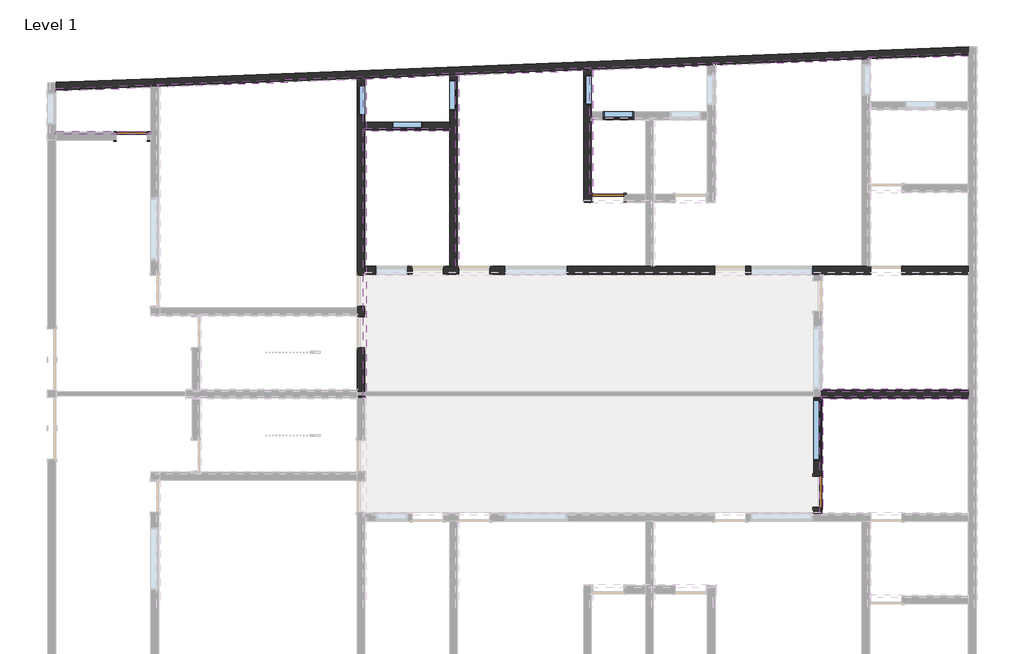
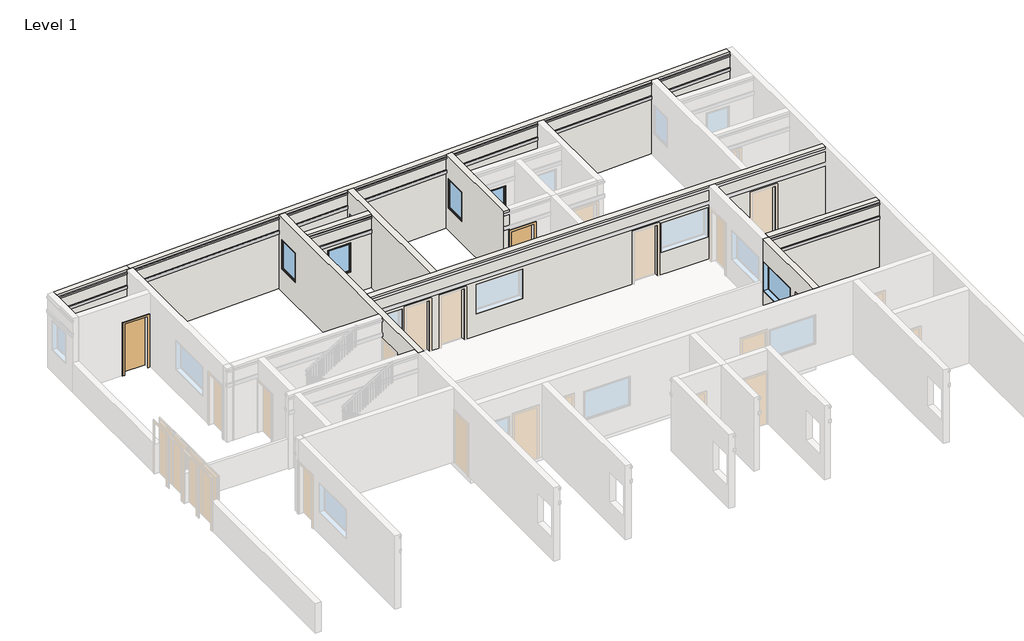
# One storey, part 4 of 5: 19 proxies, 10 walls, 6 windows, 3 doors.
"""IFC4 building model written with IfcOpenShell, lengths in millimetres."""

from ifc_helpers import new_model, si_unit, frame, origin, place, context, project, spatial, polyline, outline, extrude, faceted_brep, transform, mapped, element, save
from components import door_0ca8825f, door_a90ba1ad, window_c1f32544, fixed_6_x4_596a66d7

model = new_model("IFC4")

# Units and contexts
model_context = context("Model", 3, world=origin())
ifc_project = project(units=[si_unit("LENGTHUNIT", "METRE", prefix="MILLI")], contexts=[model_context])

# Site, building, storey
site = spatial("IfcSite", under=ifc_project)
building = spatial("IfcBuilding", under=site)
storey = spatial("IfcBuildingStorey", under=building, Name="Level 1", Elevation=0.0)

# Proxies
placement = place(None, origin())
element("IfcBuildingElementProxy", 1, Name="Reveals", at=placement, inside=storey, context=model_context, shape_type="SweptSolid", body=[
    extrude(outline(polyline([(-16957.5892301, 12403.0274363), (-16957.5892301, 12495.1720347), (-14138.1892301, 12604.815368), (-14138.1892301, 12512.6707697), (-16957.5892301, 12403.0274363)])), frame((0.0, 0.0, 2895.6), z_axis=(0.0, 0.0, 1.0), x_axis=(1.0, 0.0, 0.0)), (0.0, 0.0, 1.0), 67.7333333),
])
element("IfcBuildingElementProxy", 2, Name="Reveals", at=placement, inside=storey, context=model_context, shape_type="SweptSolid", body=[
    extrude(outline(polyline([(-7772.3142301, 3342.8239224), (-7864.3892301, 3342.8239224), (-7864.3892301, 12799.9336356), (-7772.3142301, 12799.9336356), (-7772.3142301, 3342.8239224)])), frame((0.0, 0.0, 2895.6), z_axis=(0.0, 0.0, 1.0), x_axis=(1.0, 0.0, 0.0)), (0.0, 0.0, 1.0), 67.7333333),
])
element("IfcBuildingElementProxy", 3, Name="Reveals", at=placement, inside=storey, context=model_context, shape_type="SweptSolid", body=[
    extrude(outline(polyline([(-5029.1142301, 7229.0239224), (-5121.1892301, 7229.0239224), (-5121.1892301, 12906.6136356), (-5029.1142301, 12906.6136356), (-5029.1142301, 7229.0239224)])), frame((0.0, 0.0, 2895.6), z_axis=(0.0, 0.0, 1.0), x_axis=(1.0, 0.0, 0.0)), (0.0, 0.0, 1.0), 67.7333333),
])
element("IfcBuildingElementProxy", 4, Name="Reveals", at=placement, inside=storey, context=model_context, shape_type="SweptSolid", body=[
    extrude(outline(polyline([(-7813.5892301, 11226.3489224), (-7813.5892301, 11318.4239224), (-5298.9892301, 11318.4239224), (-5298.9892301, 11226.3489224), (-7813.5892301, 11226.3489224)])), frame((0.0, 0.0, 2895.6), z_axis=(0.0, 0.0, 1.0), x_axis=(1.0, 0.0, 0.0)), (0.0, 0.0, 1.0), 67.7333333),
])
element("IfcBuildingElementProxy", 5, Name="Reveals", at=placement, inside=storey, context=model_context, shape_type="SweptSolid", body=[
    extrude(outline(polyline([(-1066.7142301, 9362.6239224), (-1158.7892301, 9362.6239224), (-1158.7892301, 13060.7069689), (-1066.7142301, 13060.7069689), (-1066.7142301, 9362.6239224)])), frame((0.0, 0.0, 2895.6), z_axis=(0.0, 0.0, 1.0), x_axis=(1.0, 0.0, 0.0)), (0.0, 0.0, 1.0), 67.7333333),
])
element("IfcBuildingElementProxy", 6, Name="Reveals", at=placement, inside=storey, context=model_context, shape_type="SweptSolid", body=[
    extrude(outline(polyline([(10042.6107699, 3612.6989224), (10042.6107699, 3520.6239224), (5648.4107699, 3520.6239224), (5740.4857699, 3612.6989224), (10042.6107699, 3612.6989224)])), frame((0.0, 0.0, 2895.6), z_axis=(0.0, 0.0, 1.0), x_axis=(1.0, 0.0, 0.0)), (0.0, 0.0, 1.0), 67.7333333),
])
element("IfcBuildingElementProxy", 7, Name="Reveals", at=placement, inside=storey, context=model_context, shape_type="SweptSolid", body=[
    extrude(outline(polyline([(-13868.3142301, 12523.1659086), (-13960.3892301, 12611.7298124), (10042.6107699, 13545.1798124), (10042.6107699, 13453.0352141), (-13868.3142301, 12523.1659086)])), frame((0.0, 0.0, 2895.6), z_axis=(0.0, 0.0, 1.0), x_axis=(1.0, 0.0, 0.0)), (0.0, 0.0, 1.0), 67.7333333),
])
element("IfcBuildingElementProxy", 8, Name="Reveals", at=placement, inside=storey, context=model_context, shape_type="SweptSolid", body=[
    extrude(outline(polyline([(5648.4107699, 3393.6239224), (5740.4857699, 3301.5489224), (5740.4857699, -86.1760776), (5648.4107699, -86.1760776), (5648.4107699, 3393.6239224)])), frame((0.0, 0.0, 2895.6), z_axis=(0.0, 0.0, 1.0), x_axis=(1.0, 0.0, 0.0)), (0.0, 0.0, 1.0), 67.7333333),
])
element("IfcBuildingElementProxy", 9, Name="Reveals", at=placement, inside=storey, context=model_context, shape_type="SweptSolid", body=[
    extrude(outline(polyline([(10042.6107699, 3393.6239224), (10042.6107699, 3301.5489224), (5740.4857699, 3301.5489224), (5648.4107699, 3393.6239224), (10042.6107699, 3393.6239224)])), frame((0.0, 0.0, 2895.6), z_axis=(0.0, 0.0, 1.0), x_axis=(1.0, 0.0, 0.0)), (0.0, 0.0, 1.0), 67.7333333),
])
element("IfcBuildingElementProxy", 10, Name="Reveals", at=placement, inside=storey, context=model_context, shape_type="SweptSolid", body=[
    extrude(outline(polyline([(-16957.5892301, 12403.0274363), (-16957.5892301, 12495.1720347), (-14138.1892301, 12604.815368), (-14138.1892301, 12512.6707697), (-16957.5892301, 12403.0274363)])), frame((0.0, 0.0, 2286.0), z_axis=(0.0, 0.0, 1.0), x_axis=(1.0, 0.0, 0.0)), (0.0, 0.0, 1.0), 135.4666667),
])
element("IfcBuildingElementProxy", 11, Name="Reveals", at=placement, inside=storey, context=model_context, shape_type="SweptSolid", body=[
    extrude(outline(polyline([(-7772.3142301, 3342.8239224), (-7864.3892301, 3342.8239224), (-7864.3892301, 12799.9336356), (-7772.3142301, 12799.9336356), (-7772.3142301, 3342.8239224)])), frame((0.0, 0.0, 2286.0), z_axis=(0.0, 0.0, 1.0), x_axis=(1.0, 0.0, 0.0)), (0.0, 0.0, 1.0), 135.4666667),
])
element("IfcBuildingElementProxy", 12, Name="Reveals", at=placement, inside=storey, context=model_context, shape_type="SweptSolid", body=[
    extrude(outline(polyline([(-5029.1142301, 7229.0239224), (-5121.1892301, 7229.0239224), (-5121.1892301, 12906.6136356), (-5029.1142301, 12906.6136356), (-5029.1142301, 7229.0239224)])), frame((0.0, 0.0, 2286.0), z_axis=(0.0, 0.0, 1.0), x_axis=(1.0, 0.0, 0.0)), (0.0, 0.0, 1.0), 135.4666667),
])
element("IfcBuildingElementProxy", 13, Name="Reveals", at=placement, inside=storey, context=model_context, shape_type="SweptSolid", body=[
    extrude(outline(polyline([(-7813.5892301, 11226.3489224), (-7813.5892301, 11318.4239224), (-5298.9892301, 11318.4239224), (-5298.9892301, 11226.3489224), (-7813.5892301, 11226.3489224)])), frame((0.0, 0.0, 2286.0), z_axis=(0.0, 0.0, 1.0), x_axis=(1.0, 0.0, 0.0)), (0.0, 0.0, 1.0), 135.4666667),
])
element("IfcBuildingElementProxy", 14, Name="Reveals", at=placement, inside=storey, context=model_context, shape_type="SweptSolid", body=[
    extrude(outline(polyline([(-1066.7142301, 9362.6239224), (-1158.7892301, 9362.6239224), (-1158.7892301, 13060.7069689), (-1066.7142301, 13060.7069689), (-1066.7142301, 9362.6239224)])), frame((0.0, 0.0, 2286.0), z_axis=(0.0, 0.0, 1.0), x_axis=(1.0, 0.0, 0.0)), (0.0, 0.0, 1.0), 135.4666667),
])
element("IfcBuildingElementProxy", 15, Name="Reveals", at=placement, inside=storey, context=model_context, shape_type="SweptSolid", body=[
    extrude(outline(polyline([(10042.6107699, 3612.6989224), (10042.6107699, 3520.6239224), (5648.4107699, 3520.6239224), (5740.4857699, 3612.6989224), (10042.6107699, 3612.6989224)])), frame((0.0, 0.0, 2286.0), z_axis=(0.0, 0.0, 1.0), x_axis=(1.0, 0.0, 0.0)), (0.0, 0.0, 1.0), 135.4666667),
])
element("IfcBuildingElementProxy", 16, Name="Reveals", at=placement, inside=storey, context=model_context, shape_type="SweptSolid", body=[
    extrude(outline(polyline([(-13868.3142301, 12523.1659086), (-13960.3892301, 12611.7298124), (10042.6107699, 13545.1798124), (10042.6107699, 13453.0352141), (-13868.3142301, 12523.1659086)])), frame((0.0, 0.0, 2286.0), z_axis=(0.0, 0.0, 1.0), x_axis=(1.0, 0.0, 0.0)), (0.0, 0.0, 1.0), 135.4666667),
])
element("IfcBuildingElementProxy", 17, Name="Reveals", at=placement, inside=storey, context=model_context, shape_type="SweptSolid", body=[
    extrude(outline(polyline([(-14138.1892301, 11232.6989224), (-14138.1892301, 11140.6239224), (-16957.5892301, 11140.6239224), (-16957.5892301, 11232.6989224), (-14138.1892301, 11232.6989224)])), frame((0.0, 0.0, 2286.0), z_axis=(0.0, 0.0, 1.0), x_axis=(1.0, 0.0, 0.0)), (0.0, 0.0, 1.0), 135.4666667),
])
element("IfcBuildingElementProxy", 18, Name="Reveals", at=placement, inside=storey, context=model_context, shape_type="SweptSolid", body=[
    extrude(outline(polyline([(5648.4107699, 3393.6239224), (5740.4857699, 3301.5489224), (5740.4857699, -86.1760776), (5648.4107699, -86.1760776), (5648.4107699, 3393.6239224)])), frame((0.0, 0.0, 2286.0), z_axis=(0.0, 0.0, 1.0), x_axis=(1.0, 0.0, 0.0)), (0.0, 0.0, 1.0), 135.4666667),
])
element("IfcBuildingElementProxy", 19, Name="Reveals", at=placement, inside=storey, context=model_context, shape_type="SweptSolid", body=[
    extrude(outline(polyline([(10042.6107699, 3393.6239224), (10042.6107699, 3301.5489224), (5740.4857699, 3301.5489224), (5648.4107699, 3393.6239224), (10042.6107699, 3393.6239224)])), frame((0.0, 0.0, 2286.0), z_axis=(0.0, 0.0, 1.0), x_axis=(1.0, 0.0, 0.0)), (0.0, 0.0, 1.0), 135.4666667),
])

# Doors
door_shape = door_0ca8825f(model_context)
element("IfcDoor", 20, ObjectType="Single-Flush : 36\" x 84\"", at=placement, inside=storey, context=model_context, shape_type="MappedRepresentation", body=[
    mapped(door_shape, transform((-14709.6892301, 11077.1239224, 0.0), x_axis=(1.0, 0.0, 0.0), y_axis=(0.0, 1.0, 0.0), z_axis=(0.0, 0.0, 1.0))),
])
element("IfcDoor", 21, ObjectType="Single-Flush : 36\" x 84\"", at=placement, inside=storey, context=model_context, shape_type="MappedRepresentation", body=[
    mapped(door_shape, transform((5584.9107699, 561.5239224, 0.0), x_axis=(0.0, -1.0, 0.0), y_axis=(1.0, 0.0, 0.0), z_axis=(0.0, 0.0, 1.0))),
])
door_2_shape = door_a90ba1ad(model_context)
element("IfcDoor", 22, ObjectType="Single-Flush : 36\" x 84\"", at=placement, inside=storey, context=model_context, shape_type="MappedRepresentation", body=[
    mapped(door_2_shape, transform((-612.6892301, 9248.3239224, 0.0), x_axis=(-1.0, 0.0, 0.0), y_axis=(0.0, -1.0, 0.0), z_axis=(0.0, 0.0, 1.0))),
])

# Walls
element("IfcWall", 23, ObjectType="9\" thick brick wall", at=placement, inside=storey, context=model_context, shape_type="Brep", body=[
    faceted_brep([(-16957.5892301, 12444.3336356, 0.0), (-14138.1892301, 12553.9769689, 0.0), (-14019.4475875, 12558.5946995, 0.0), (-14019.4475875, 12558.5946995, 3048.0), (-14138.1892301, 12553.9769689, 3048.0), (-16957.5892301, 12444.3336356, 3048.0), (-16957.5892301, 12444.3336356, 2963.3333333), (-14138.1892301, 12553.9769689, 2963.3333333), (-14138.1892301, 12553.9769689, 2895.6), (-16957.5892301, 12444.3336356, 2895.6), (-16957.5892301, 12444.3336356, 2421.4666667), (-14138.1892301, 12553.9769689, 2421.4666667), (-14138.1892301, 12553.9769689, 2286.0), (-16957.5892301, 12444.3336356, 2286.0), (-14028.3308727, 12787.0220342, 0.0), (-16957.5892301, 12673.1064314, 0.0), (-16957.5892301, 12673.1064314, 3048.0), (-14028.3308727, 12787.0220342, 3048.0), (-16957.5892301, 12495.1720347, 2286.0), (-16957.5892301, 12495.1720347, 2421.4666667), (-16957.5892301, 12495.1720347, 2895.6), (-16957.5892301, 12495.1720347, 2963.3333333), (-14138.1892301, 12604.815368, 2963.3333333), (-14138.1892301, 12604.815368, 2895.6), (-14138.1892301, 12604.815368, 2421.4666667), (-14138.1892301, 12604.815368, 2286.0)], [[[0, 1, 2, 3, 4, 5, 6, 7, 8, 9, 10, 11, 12, 13]], [[14, 15, 16, 17]], [[2, 1, 0, 15, 14]], [[3, 2, 14, 17]], [[5, 4, 3, 17, 16]], [[5, 16, 15, 0, 13, 18, 19, 10, 9, 20, 21, 6]], [[22, 23, 8, 7]], [[23, 22, 21, 20]], [[23, 20, 9, 8]], [[21, 22, 7, 6]], [[24, 25, 12, 11]], [[25, 24, 19, 18]], [[25, 18, 13, 12]], [[19, 24, 11, 10]]]),
])
element("IfcWall", 24, ObjectType="9\" thick brick wall", at=placement, inside=storey, context=model_context, shape_type="Brep", body=[
    faceted_brep([(-7813.5892301, 12799.9336356, 3048.0), (-7813.5892301, 11496.2239224, 3048.0), (-7813.5892301, 11267.6239224, 3048.0), (-7813.5892301, 7229.0239224, 3048.0), (-7813.5892301, 7000.4239224, 3048.0), (-7813.5892301, 3342.8239224, 3048.0), (-7813.5892301, 3342.8239224, 2963.3333333), (-7813.5892301, 11267.6239224, 2963.3333333), (-7813.5892301, 11318.4239224, 2963.3333333), (-7813.5892301, 12799.9336356, 2963.3333333), (-7813.5892301, 6047.9239224, 0.0), (-7813.5892301, 6047.9239224, 2133.6), (-7813.5892301, 6962.3239224, 2133.6), (-7813.5892301, 6962.3239224, 0.0), (-7813.5892301, 7000.4239224, 0.0), (-7813.5892301, 7229.0239224, 0.0), (-7813.5892301, 11267.6239224, 0.0), (-7813.5892301, 11496.2239224, 0.0), (-7813.5892301, 12799.9336356, 0.0), (-7813.5892301, 12799.9336356, 2286.0), (-7813.5892301, 11318.4239224, 2286.0), (-7813.5892301, 11267.6239224, 2286.0), (-7813.5892301, 3342.8239224, 2286.0), (-7813.5892301, 3342.8239224, 0.0), (-7813.5892301, 4828.7239224, 0.0), (-7813.5892301, 4828.7239224, 2133.6), (-7813.5892301, 5743.1239224, 2133.6), (-7813.5892301, 5743.1239224, 0.0), (-7813.5892301, 12601.1239224, 2133.6), (-7813.5892301, 12601.1239224, 914.4), (-7813.5892301, 11686.7239224, 914.4), (-7813.5892301, 11686.7239224, 2133.6), (-7813.5892301, 12799.9336356, 2895.6), (-7813.5892301, 11318.4239224, 2895.6), (-7813.5892301, 11267.6239224, 2895.6), (-7813.5892301, 3342.8239224, 2895.6), (-7813.5892301, 3342.8239224, 2421.4666667), (-7813.5892301, 11267.6239224, 2421.4666667), (-7813.5892301, 11318.4239224, 2421.4666667), (-7813.5892301, 12799.9336356, 2421.4666667), (-8042.1892301, 3342.8239224, 3048.0), (-8042.1892301, 3571.4239224, 3048.0), (-8042.1892301, 5781.2239224, 3048.0), (-8042.1892301, 6009.8239224, 3048.0), (-8042.1892301, 12791.0436356, 3048.0), (-8042.1892301, 12791.0436356, 0.0), (-8042.1892301, 6962.3239224, 0.0), (-8042.1892301, 6962.3239224, 2133.6), (-8042.1892301, 6047.9239224, 2133.6), (-8042.1892301, 6047.9239224, 0.0), (-8042.1892301, 6009.8239224, 0.0), (-8042.1892301, 5781.2239224, 0.0), (-8042.1892301, 5743.1239224, 0.0), (-8042.1892301, 5743.1239224, 2133.6), (-8042.1892301, 4828.7239224, 2133.6), (-8042.1892301, 4828.7239224, 0.0), (-8042.1892301, 3571.4239224, 0.0), (-8042.1892301, 3342.8239224, 0.0), (-8042.1892301, 3342.8239224, 2286.0), (-8042.1892301, 3342.8239224, 2421.4666667), (-8042.1892301, 3342.8239224, 2895.6), (-8042.1892301, 3342.8239224, 2963.3333333), (-8042.1892301, 12601.1239224, 914.4), (-8042.1892301, 12601.1239224, 2133.6), (-8042.1892301, 11686.7239224, 2133.6), (-8042.1892301, 11686.7239224, 914.4), (-7864.3892301, 3342.8239224, 2286.0), (-7864.3892301, 3342.8239224, 2421.4666667), (-7864.3892301, 3342.8239224, 2895.6), (-7864.3892301, 3342.8239224, 2963.3333333), (-7864.3892301, 12797.95808, 2963.3333333), (-7864.3892301, 12797.95808, 2895.6), (-7864.3892301, 12797.95808, 2421.4666667), (-7864.3892301, 12797.95808, 2286.0)], [[[0, 1, 2, 3, 4, 5, 6, 7, 8, 9]], [[10, 11, 12, 13, 14, 15, 16, 17, 18, 19, 20, 21, 22, 23, 24, 25, 26, 27], [28, 29, 30, 31]], [[32, 33, 34, 35, 36, 37, 38, 39]], [[40, 41, 42, 43, 44, 45, 46, 47, 48, 49, 50, 51, 52, 53, 54, 55, 56, 57, 58, 59, 60, 61], [62, 63, 64, 65]], [[23, 57, 56, 55, 24]], [[45, 18, 17, 16, 15, 14, 13, 46]], [[49, 10, 27, 52, 51, 50]], [[5, 4, 3, 2, 1, 0, 44, 43, 42, 41, 40]], [[5, 40, 61, 60, 59, 58, 57, 23, 22, 66, 67, 36, 35, 68, 69, 6]], [[18, 45, 44, 0, 9, 70, 71, 32, 39, 72, 73, 19]], [[11, 10, 49, 48]], [[12, 11, 48, 47]], [[13, 12, 47, 46]], [[53, 52, 27, 26]], [[54, 53, 26, 25]], [[55, 54, 25, 24]], [[29, 28, 63, 62]], [[30, 29, 62, 65]], [[31, 30, 65, 64]], [[28, 31, 64, 63]], [[70, 69, 68, 71]], [[71, 68, 35, 34, 33, 32]], [[69, 70, 9, 8, 7, 6]], [[72, 67, 66, 73]], [[73, 66, 22, 21, 20, 19]], [[67, 72, 39, 38, 37, 36]]]),
])
element("IfcWall", 25, ObjectType="9\" thick brick wall", at=placement, inside=storey, context=model_context, shape_type="Brep", body=[
    faceted_brep([(-5070.3892301, 7229.0239224, 0.0), (-5070.3892301, 12906.6136356, 0.0), (-5070.3892301, 12906.6136356, 2286.0), (-5070.3892301, 7229.0239224, 2286.0), (-5070.3892301, 11839.1239224, 914.4), (-5070.3892301, 11839.1239224, 2133.6), (-5070.3892301, 12753.5239224, 2133.6), (-5070.3892301, 12753.5239224, 914.4), (-5070.3892301, 12906.6136356, 3048.0), (-5070.3892301, 7229.0239224, 3048.0), (-5070.3892301, 7229.0239224, 2963.3333333), (-5070.3892301, 12906.6136356, 2963.3333333), (-5070.3892301, 12906.6136356, 2895.6), (-5070.3892301, 7229.0239224, 2895.6), (-5070.3892301, 7229.0239224, 2421.4666667), (-5070.3892301, 12906.6136356, 2421.4666667), (-5298.9892301, 12897.7236356, 0.0), (-5298.9892301, 11496.2239224, 0.0), (-5298.9892301, 11267.6239224, 0.0), (-5298.9892301, 7229.0239224, 0.0), (-5298.9892301, 7229.0239224, 3048.0), (-5298.9892301, 11267.6239224, 3048.0), (-5298.9892301, 11496.2239224, 3048.0), (-5298.9892301, 12897.7236356, 3048.0), (-5298.9892301, 11839.1239224, 2133.6), (-5298.9892301, 11839.1239224, 914.4), (-5298.9892301, 12753.5239224, 914.4), (-5298.9892301, 12753.5239224, 2133.6), (-5121.1892301, 7229.0239224, 2286.0), (-5121.1892301, 7229.0239224, 2421.4666667), (-5121.1892301, 7229.0239224, 2895.6), (-5121.1892301, 7229.0239224, 2963.3333333), (-5121.1892301, 12904.63808, 2963.3333333), (-5121.1892301, 12904.63808, 2895.6), (-5121.1892301, 12904.63808, 2421.4666667), (-5121.1892301, 12904.63808, 2286.0)], [[[0, 1, 2, 3], [4, 5, 6, 7]], [[8, 9, 10, 11]], [[12, 13, 14, 15]], [[16, 17, 18, 19, 20, 21, 22, 23], [24, 25, 26, 27]], [[1, 0, 19, 18, 17, 16]], [[9, 8, 23, 22, 21, 20]], [[9, 20, 19, 0, 3, 28, 29, 14, 13, 30, 31, 10]], [[1, 16, 23, 8, 11, 32, 33, 12, 15, 34, 35, 2]], [[25, 24, 5, 4]], [[26, 25, 4, 7]], [[27, 26, 7, 6]], [[24, 27, 6, 5]], [[32, 31, 30, 33]], [[33, 30, 13, 12]], [[31, 32, 11, 10]], [[34, 29, 28, 35]], [[35, 28, 3, 2]], [[29, 34, 15, 14]]]),
])
element("IfcWall", 26, ObjectType="9\" thick brick wall", at=placement, inside=storey, context=model_context, shape_type="Brep", body=[
    faceted_brep([(10042.6107699, 7000.4239224, 3048.0), (5699.2107699, 7000.4239224, 3048.0), (5470.6107699, 7000.4239224, 3048.0), (-7813.5892301, 7000.4239224, 3048.0), (-7813.5892301, 7000.4239224, 2963.3333333), (10042.6107699, 7000.4239224, 2963.3333333), (-5489.4892301, 7000.4239224, 2133.6), (-5489.4892301, 7000.4239224, 0.0), (-5032.2892301, 7000.4239224, 0.0), (-5032.2892301, 7000.4239224, 2133.6), (-4117.8892301, 7000.4239224, 2133.6), (-4117.8892301, 7000.4239224, 0.0), (2536.9107699, 7000.4239224, 0.0), (2536.9107699, 7000.4239224, 2133.6), (3451.3107699, 7000.4239224, 2133.6), (3451.3107699, 7000.4239224, 0.0), (5470.6107699, 7000.4239224, 0.0), (5699.2107699, 7000.4239224, 0.0), (7159.7107699, 7000.4239224, 0.0), (7159.7107699, 7000.4239224, 2133.6), (8074.1107699, 7000.4239224, 2133.6), (8074.1107699, 7000.4239224, 0.0), (10042.6107699, 7000.4239224, 0.0), (10042.6107699, 7000.4239224, 2286.0), (-7813.5892301, 7000.4239224, 2286.0), (-7813.5892301, 7000.4239224, 0.0), (-6403.8892301, 7000.4239224, 0.0), (-6403.8892301, 7000.4239224, 2133.6), (-1831.8892301, 7000.4239224, 2133.6), (-1831.8892301, 7000.4239224, 914.4), (-3660.6892301, 7000.4239224, 914.4), (-3660.6892301, 7000.4239224, 2133.6), (5432.5107699, 7000.4239224, 2133.6), (5432.5107699, 7000.4239224, 914.4), (3603.7107699, 7000.4239224, 914.4), (3603.7107699, 7000.4239224, 2133.6), (-7470.6892301, 7000.4239224, 914.4), (-7470.6892301, 7000.4239224, 2133.6), (-6556.2892301, 7000.4239224, 2133.6), (-6556.2892301, 7000.4239224, 914.4), (10042.6107699, 7000.4239224, 2895.6), (-7813.5892301, 7000.4239224, 2895.6), (-7813.5892301, 7000.4239224, 2421.4666667), (10042.6107699, 7000.4239224, 2421.4666667), (-7813.5892301, 7229.0239224, 3048.0), (-5298.9892301, 7229.0239224, 3048.0), (-5070.3892301, 7229.0239224, 3048.0), (492.2107699, 7229.0239224, 3048.0), (720.8107699, 7229.0239224, 3048.0), (6893.0107699, 7229.0239224, 3048.0), (7121.6107699, 7229.0239224, 3048.0), (10042.6107699, 7229.0239224, 3048.0), (10042.6107699, 7229.0239224, 0.0), (8074.1107699, 7229.0239224, 0.0), (8074.1107699, 7229.0239224, 2133.6), (7159.7107699, 7229.0239224, 2133.6), (7159.7107699, 7229.0239224, 0.0), (7121.6107699, 7229.0239224, 0.0), (6893.0107699, 7229.0239224, 0.0), (3451.3107699, 7229.0239224, 0.0), (3451.3107699, 7229.0239224, 2133.6), (2536.9107699, 7229.0239224, 2133.6), (2536.9107699, 7229.0239224, 0.0), (720.8107699, 7229.0239224, 0.0), (492.2107699, 7229.0239224, 0.0), (-4117.8892301, 7229.0239224, 0.0), (-4117.8892301, 7229.0239224, 2133.6), (-5032.2892301, 7229.0239224, 2133.6), (-5032.2892301, 7229.0239224, 0.0), (-5070.3892301, 7229.0239224, 0.0), (-5298.9892301, 7229.0239224, 0.0), (-5489.4892301, 7229.0239224, 0.0), (-5489.4892301, 7229.0239224, 2133.6), (-6403.8892301, 7229.0239224, 2133.6), (-6403.8892301, 7229.0239224, 0.0), (-7813.5892301, 7229.0239224, 0.0), (-1831.8892301, 7229.0239224, 914.4), (-1831.8892301, 7229.0239224, 2133.6), (-3660.6892301, 7229.0239224, 2133.6), (-3660.6892301, 7229.0239224, 914.4), (5432.5107699, 7229.0239224, 914.4), (5432.5107699, 7229.0239224, 2133.6), (3603.7107699, 7229.0239224, 2133.6), (3603.7107699, 7229.0239224, 914.4), (-7470.6892301, 7229.0239224, 2133.6), (-7470.6892301, 7229.0239224, 914.4), (-6556.2892301, 7229.0239224, 914.4), (-6556.2892301, 7229.0239224, 2133.6), (-7813.5892301, 7051.2239224, 2286.0), (-7813.5892301, 7051.2239224, 2421.4666667), (-7813.5892301, 7051.2239224, 2895.6), (-7813.5892301, 7051.2239224, 2963.3333333), (10042.6107699, 7051.2239224, 2963.3333333), (10042.6107699, 7051.2239224, 2895.6), (10042.6107699, 7051.2239224, 2421.4666667), (10042.6107699, 7051.2239224, 2286.0)], [[[0, 1, 2, 3, 4, 5]], [[6, 7, 8, 9, 10, 11, 12, 13, 14, 15, 16, 17, 18, 19, 20, 21, 22, 23, 24, 25, 26, 27], [28, 29, 30, 31], [32, 33, 34, 35], [36, 37, 38, 39]], [[40, 41, 42, 43]], [[44, 45, 46, 47, 48, 49, 50, 51, 52, 53, 54, 55, 56, 57, 58, 59, 60, 61, 62, 63, 64, 65, 66, 67, 68, 69, 70, 71, 72, 73, 74, 75], [76, 77, 78, 79], [80, 81, 82, 83], [84, 85, 86, 87]], [[25, 75, 74, 26]], [[52, 22, 21, 53]], [[7, 71, 70, 69, 68, 8]], [[11, 65, 64, 63, 62, 12]], [[56, 18, 17, 16, 15, 59, 58, 57]], [[3, 2, 1, 0, 51, 50, 49, 48, 47, 46, 45, 44]], [[3, 44, 75, 25, 24, 88, 89, 42, 41, 90, 91, 4]], [[22, 52, 51, 0, 5, 92, 93, 40, 43, 94, 95, 23]], [[72, 71, 7, 6]], [[73, 72, 6, 27]], [[74, 73, 27, 26]], [[9, 8, 68, 67]], [[10, 9, 67, 66]], [[11, 10, 66, 65]], [[19, 18, 56, 55]], [[20, 19, 55, 54]], [[21, 20, 54, 53]], [[13, 12, 62, 61]], [[14, 13, 61, 60]], [[15, 14, 60, 59]], [[29, 28, 77, 76]], [[30, 29, 76, 79]], [[31, 30, 79, 78]], [[28, 31, 78, 77]], [[33, 32, 81, 80]], [[34, 33, 80, 83]], [[35, 34, 83, 82]], [[32, 35, 82, 81]], [[85, 84, 37, 36]], [[86, 85, 36, 39]], [[87, 86, 39, 38]], [[84, 87, 38, 37]], [[92, 91, 90, 93]], [[93, 90, 41, 40]], [[91, 92, 5, 4]], [[94, 89, 88, 95]], [[95, 88, 24, 23]], [[89, 94, 43, 42]]]),
])
element("IfcWall", 27, ObjectType="9\" thick brick wall", at=placement, inside=storey, context=model_context, shape_type="Brep", body=[
    faceted_brep([(-7813.5892301, 11267.6239224, 0.0), (-5298.9892301, 11267.6239224, 0.0), (-5298.9892301, 11267.6239224, 2286.0), (-7813.5892301, 11267.6239224, 2286.0), (-7013.4892301, 11267.6239224, 914.4), (-7013.4892301, 11267.6239224, 2133.6), (-6099.0892301, 11267.6239224, 2133.6), (-6099.0892301, 11267.6239224, 914.4), (-5298.9892301, 11267.6239224, 3048.0), (-7813.5892301, 11267.6239224, 3048.0), (-7813.5892301, 11267.6239224, 2963.3333333), (-5298.9892301, 11267.6239224, 2963.3333333), (-5298.9892301, 11267.6239224, 2895.6), (-7813.5892301, 11267.6239224, 2895.6), (-7813.5892301, 11267.6239224, 2421.4666667), (-5298.9892301, 11267.6239224, 2421.4666667), (-5298.9892301, 11496.2239224, 0.0), (-7813.5892301, 11496.2239224, 0.0), (-7813.5892301, 11496.2239224, 3048.0), (-5298.9892301, 11496.2239224, 3048.0), (-7013.4892301, 11496.2239224, 2133.6), (-7013.4892301, 11496.2239224, 914.4), (-6099.0892301, 11496.2239224, 914.4), (-6099.0892301, 11496.2239224, 2133.6), (-7813.5892301, 11318.4239224, 2286.0), (-7813.5892301, 11318.4239224, 2421.4666667), (-7813.5892301, 11318.4239224, 2895.6), (-7813.5892301, 11318.4239224, 2963.3333333), (-5298.9892301, 11318.4239224, 2963.3333333), (-5298.9892301, 11318.4239224, 2895.6), (-5298.9892301, 11318.4239224, 2421.4666667), (-5298.9892301, 11318.4239224, 2286.0)], [[[0, 1, 2, 3], [4, 5, 6, 7]], [[8, 9, 10, 11]], [[12, 13, 14, 15]], [[16, 17, 18, 19], [20, 21, 22, 23]], [[1, 0, 17, 16]], [[9, 8, 19, 18]], [[9, 18, 17, 0, 3, 24, 25, 14, 13, 26, 27, 10]], [[1, 16, 19, 8, 11, 28, 29, 12, 15, 30, 31, 2]], [[21, 20, 5, 4]], [[22, 21, 4, 7]], [[23, 22, 7, 6]], [[20, 23, 6, 5]], [[28, 27, 26, 29]], [[29, 26, 13, 12]], [[27, 28, 11, 10]], [[30, 25, 24, 31]], [[31, 24, 3, 2]], [[25, 30, 15, 14]]]),
])
element("IfcWall", 28, ObjectType="9\" thick brick wall", at=placement, inside=storey, context=model_context, shape_type="Brep", body=[
    faceted_brep([(-1107.9892301, 9134.0239224, 0.0), (-1107.9892301, 9362.6239224, 0.0), (-1107.9892301, 11572.4239224, 0.0), (-1107.9892301, 11801.0239224, 0.0), (-1107.9892301, 13060.7069689, 0.0), (-1107.9892301, 13060.7069689, 2286.0), (-1107.9892301, 11623.2239224, 2286.0), (-1107.9892301, 11572.4239224, 2286.0), (-1107.9892301, 9362.6239224, 2286.0), (-1107.9892301, 9362.6239224, 2421.4666667), (-1107.9892301, 11572.4239224, 2421.4666667), (-1107.9892301, 11623.2239224, 2421.4666667), (-1107.9892301, 13060.7069689, 2421.4666667), (-1107.9892301, 13060.7069689, 2895.6), (-1107.9892301, 11623.2239224, 2895.6), (-1107.9892301, 11572.4239224, 2895.6), (-1107.9892301, 9362.6239224, 2895.6), (-1107.9892301, 9362.6239224, 2963.3333333), (-1107.9892301, 11572.4239224, 2963.3333333), (-1107.9892301, 11623.2239224, 2963.3333333), (-1107.9892301, 13060.7069689, 2963.3333333), (-1107.9892301, 13060.7069689, 3048.0), (-1107.9892301, 11801.0239224, 3048.0), (-1107.9892301, 11572.4239224, 3048.0), (-1107.9892301, 9362.6239224, 3048.0), (-1107.9892301, 9134.0239224, 3048.0), (-1107.9892301, 9134.0239224, 2963.3333333), (-1107.9892301, 9184.8239224, 2963.3333333), (-1107.9892301, 9184.8239224, 2895.6), (-1107.9892301, 9134.0239224, 2895.6), (-1107.9892301, 9134.0239224, 2421.4666667), (-1107.9892301, 9184.8239224, 2421.4666667), (-1107.9892301, 9184.8239224, 2286.0), (-1107.9892301, 9134.0239224, 2286.0), (-1107.9892301, 12905.9239224, 2133.6), (-1107.9892301, 12905.9239224, 914.4), (-1107.9892301, 11991.5239224, 914.4), (-1107.9892301, 11991.5239224, 2133.6), (-1336.5892301, 13051.8169689, 0.0), (-1336.5892301, 9134.0239224, 0.0), (-1336.5892301, 9134.0239224, 2286.0), (-1336.5892301, 9184.8239224, 2286.0), (-1336.5892301, 9184.8239224, 2421.4666667), (-1336.5892301, 9134.0239224, 2421.4666667), (-1336.5892301, 9134.0239224, 2895.6), (-1336.5892301, 9184.8239224, 2895.6), (-1336.5892301, 9184.8239224, 2963.3333333), (-1336.5892301, 9134.0239224, 2963.3333333), (-1336.5892301, 9134.0239224, 3048.0), (-1336.5892301, 13051.8169689, 3048.0), (-1336.5892301, 12905.9239224, 914.4), (-1336.5892301, 12905.9239224, 2133.6), (-1336.5892301, 11991.5239224, 2133.6), (-1336.5892301, 11991.5239224, 914.4), (-1158.7892301, 13058.7314134, 2963.3333333), (-1158.7892301, 13058.7314134, 2895.6), (-1158.7892301, 13058.7314134, 2421.4666667), (-1158.7892301, 13058.7314134, 2286.0), (-1158.7892301, 9362.6239224, 2895.6), (-1158.7892301, 9362.6239224, 2963.3333333), (-1158.7892301, 9362.6239224, 2286.0), (-1158.7892301, 9362.6239224, 2421.4666667)], [[[0, 1, 2, 3, 4, 5, 6, 7, 8, 9, 10, 11, 12, 13, 14, 15, 16, 17, 18, 19, 20, 21, 22, 23, 24, 25, 26, 27, 28, 29, 30, 31, 32, 33], [34, 35, 36, 37]], [[38, 39, 40, 41, 42, 43, 44, 45, 46, 47, 48, 49], [50, 51, 52, 53]], [[4, 3, 2, 1, 0, 39, 38]], [[25, 24, 23, 22, 21, 49, 48]], [[25, 48, 47, 26]], [[39, 0, 33, 40]], [[29, 44, 43, 30]], [[4, 38, 49, 21, 20, 54, 55, 13, 12, 56, 57, 5]], [[35, 34, 51, 50]], [[36, 35, 50, 53]], [[37, 36, 53, 52]], [[34, 37, 52, 51]], [[58, 59, 17, 16]], [[59, 58, 55, 54]], [[58, 16, 15, 14, 13, 55]], [[17, 59, 54, 20, 19, 18]], [[27, 46, 45, 28]], [[28, 45, 44, 29]], [[46, 27, 26, 47]], [[60, 61, 9, 8]], [[61, 60, 57, 56]], [[60, 8, 7, 6, 5, 57]], [[9, 61, 56, 12, 11, 10]], [[31, 42, 41, 32]], [[32, 41, 40, 33]], [[42, 31, 30, 43]]]),
])
element("IfcWall", 29, ObjectType="9\" thick brick wall", at=placement, inside=storey, context=model_context, shape_type="SweptSolid", body=[
    extrude(outline(polyline([(3571.4239224, 0.0), (3342.8239224, 0.0), (3342.8239224, 2286.0), (3393.6239224, 2286.0), (3393.6239224, 2421.4666667), (3342.8239224, 2421.4666667), (3342.8239224, 2895.6), (3393.6239224, 2895.6), (3393.6239224, 2963.3333333), (3342.8239224, 2963.3333333), (3342.8239224, 3048.0), (3571.4239224, 3048.0), (3571.4239224, 2963.3333333), (3520.6239224, 2963.3333333), (3520.6239224, 2895.6), (3571.4239224, 2895.6), (3571.4239224, 2421.4666667), (3520.6239224, 2421.4666667), (3520.6239224, 2286.0), (3571.4239224, 2286.0), (3571.4239224, 0.0)])), frame((5699.2107699, 0.0, 0.0), z_axis=(1.0, 0.0, 0.0), x_axis=(0.0, 1.0, 0.0)), (0.0, 0.0, 1.0), 4343.4),
])
element("IfcWall", 30, ObjectType="9\" thick brick wall", at=placement, inside=storey, context=model_context, shape_type="Brep", body=[
    faceted_brep([(-14019.4475875, 12558.5946995, 0.0), (-13909.5892301, 12562.8669689, 0.0), (-8042.1892301, 12791.0436356, 0.0), (-7813.5892301, 12799.9336356, 0.0), (-5298.9892301, 12897.7236356, 0.0), (-5070.3892301, 12906.6136356, 0.0), (-1336.5892301, 13051.8169689, 0.0), (-1107.9892301, 13060.7069689, 0.0), (2321.0107699, 13194.0569689, 0.0), (2549.6107699, 13202.9469689, 0.0), (6893.0107699, 13371.8569689, 0.0), (7121.6107699, 13380.7469689, 0.0), (10042.6107699, 13494.3414134, 0.0), (10042.6107699, 13494.3414134, 2286.0), (7121.6107699, 13380.7469689, 2286.0), (7070.8107699, 13378.7714134, 2286.0), (2549.6107699, 13202.9469689, 2286.0), (2498.8107699, 13200.9714134, 2286.0), (-1107.9892301, 13060.7069689, 2286.0), (-1158.7892301, 13058.7314134, 2286.0), (-5070.3892301, 12906.6136356, 2286.0), (-5121.1892301, 12904.63808, 2286.0), (-7813.5892301, 12799.9336356, 2286.0), (-7864.3892301, 12797.95808, 2286.0), (-13909.5892301, 12562.8669689, 2286.0), (-13960.3892301, 12560.8914134, 2286.0), (-13960.3892301, 12560.8914134, 2421.4666667), (-13909.5892301, 12562.8669689, 2421.4666667), (-7864.3892301, 12797.95808, 2421.4666667), (-7813.5892301, 12799.9336356, 2421.4666667), (-5121.1892301, 12904.63808, 2421.4666667), (-5070.3892301, 12906.6136356, 2421.4666667), (-1158.7892301, 13058.7314134, 2421.4666667), (-1107.9892301, 13060.7069689, 2421.4666667), (2498.8107699, 13200.9714134, 2421.4666667), (2549.6107699, 13202.9469689, 2421.4666667), (7070.8107699, 13378.7714134, 2421.4666667), (7121.6107699, 13380.7469689, 2421.4666667), (10042.6107699, 13494.3414134, 2421.4666667), (10042.6107699, 13494.3414134, 2895.6), (7121.6107699, 13380.7469689, 2895.6), (7070.8107699, 13378.7714134, 2895.6), (2549.6107699, 13202.9469689, 2895.6), (2498.8107699, 13200.9714134, 2895.6), (-1107.9892301, 13060.7069689, 2895.6), (-1158.7892301, 13058.7314134, 2895.6), (-5070.3892301, 12906.6136356, 2895.6), (-5121.1892301, 12904.63808, 2895.6), (-7813.5892301, 12799.9336356, 2895.6), (-7864.3892301, 12797.95808, 2895.6), (-13909.5892301, 12562.8669689, 2895.6), (-13960.3892301, 12560.8914134, 2895.6), (-13960.3892301, 12560.8914134, 2963.3333333), (-13909.5892301, 12562.8669689, 2963.3333333), (-7864.3892301, 12797.95808, 2963.3333333), (-7813.5892301, 12799.9336356, 2963.3333333), (-5121.1892301, 12904.63808, 2963.3333333), (-5070.3892301, 12906.6136356, 2963.3333333), (-1158.7892301, 13058.7314134, 2963.3333333), (-1107.9892301, 13060.7069689, 2963.3333333), (2498.8107699, 13200.9714134, 2963.3333333), (2549.6107699, 13202.9469689, 2963.3333333), (7070.8107699, 13378.7714134, 2963.3333333), (7121.6107699, 13380.7469689, 2963.3333333), (10042.6107699, 13494.3414134, 2963.3333333), (10042.6107699, 13494.3414134, 3048.0), (7121.6107699, 13380.7469689, 3048.0), (6893.0107699, 13371.8569689, 3048.0), (2549.6107699, 13202.9469689, 3048.0), (2321.0107699, 13194.0569689, 3048.0), (-1107.9892301, 13060.7069689, 3048.0), (-1336.5892301, 13051.8169689, 3048.0), (-5070.3892301, 12906.6136356, 3048.0), (-5298.9892301, 12897.7236356, 3048.0), (-7813.5892301, 12799.9336356, 3048.0), (-8042.1892301, 12791.0436356, 3048.0), (-13909.5892301, 12562.8669689, 3048.0), (-14019.4475875, 12558.5946995, 3048.0), (10042.6107699, 13723.1142092, 0.0), (-14028.3308727, 12787.0220342, 0.0), (-14028.3308727, 12787.0220342, 3048.0), (10042.6107699, 13723.1142092, 3048.0), (10042.6107699, 13545.1798124, 2963.3333333), (10042.6107699, 13545.1798124, 2895.6), (10042.6107699, 13545.1798124, 2421.4666667), (10042.6107699, 13545.1798124, 2286.0), (-13960.3892301, 12611.7298124, 2895.6), (-13960.3892301, 12611.7298124, 2963.3333333), (-13960.3892301, 12611.7298124, 2286.0), (-13960.3892301, 12611.7298124, 2421.4666667)], [[[0, 1, 2, 3, 4, 5, 6, 7, 8, 9, 10, 11, 12, 13, 14, 15, 16, 17, 18, 19, 20, 21, 22, 23, 24, 25, 26, 27, 28, 29, 30, 31, 32, 33, 34, 35, 36, 37, 38, 39, 40, 41, 42, 43, 44, 45, 46, 47, 48, 49, 50, 51, 52, 53, 54, 55, 56, 57, 58, 59, 60, 61, 62, 63, 64, 65, 66, 67, 68, 69, 70, 71, 72, 73, 74, 75, 76, 77]], [[78, 79, 80, 81]], [[12, 11, 10, 9, 8, 7, 6, 5, 4, 3, 2, 1, 0, 79, 78]], [[77, 76, 75, 74, 73, 72, 71, 70, 69, 68, 67, 66, 65, 81, 80]], [[0, 77, 80, 79]], [[12, 78, 81, 65, 64, 82, 83, 39, 38, 84, 85, 13]], [[86, 87, 52, 51]], [[83, 86, 51, 50, 49, 48, 47, 46, 45, 44, 43, 42, 41, 40, 39]], [[87, 82, 64, 63, 62, 61, 60, 59, 58, 57, 56, 55, 54, 53, 52]], [[87, 86, 83, 82]], [[88, 89, 26, 25]], [[85, 88, 25, 24, 23, 22, 21, 20, 19, 18, 17, 16, 15, 14, 13]], [[89, 84, 38, 37, 36, 35, 34, 33, 32, 31, 30, 29, 28, 27, 26]], [[89, 88, 85, 84]]]),
])
element("IfcWall", 31, ObjectType="9\" thick brick wall", at=placement, inside=storey, context=model_context, shape_type="Brep", body=[
    faceted_brep([(5470.6107699, -86.1760776, 3048.0), (5470.6107699, 3342.8239224, 3048.0), (5470.6107699, 3342.8239224, 0.0), (5470.6107699, 1018.7239224, 0.0), (5470.6107699, 1018.7239224, 2133.6), (5470.6107699, 104.3239224, 2133.6), (5470.6107699, 104.3239224, 0.0), (5470.6107699, -86.1760776, 0.0), (5470.6107699, 3304.7239224, 914.4), (5470.6107699, 3304.7239224, 2133.6), (5470.6107699, 1475.9239224, 2133.6), (5470.6107699, 1475.9239224, 914.4), (5699.2107699, 3342.8239224, 3048.0), (5699.2107699, -86.1760776, 3048.0), (5699.2107699, -86.1760776, 2963.3333333), (5699.2107699, 3342.8239224, 2963.3333333), (5699.2107699, 104.3239224, 0.0), (5699.2107699, 104.3239224, 2133.6), (5699.2107699, 1018.7239224, 2133.6), (5699.2107699, 1018.7239224, 0.0), (5699.2107699, 3342.8239224, 0.0), (5699.2107699, 3342.8239224, 2286.0), (5699.2107699, -86.1760776, 2286.0), (5699.2107699, -86.1760776, 0.0), (5699.2107699, 3304.7239224, 2133.6), (5699.2107699, 3304.7239224, 914.4), (5699.2107699, 1475.9239224, 914.4), (5699.2107699, 1475.9239224, 2133.6), (5699.2107699, 3342.8239224, 2895.6), (5699.2107699, -86.1760776, 2895.6), (5699.2107699, -86.1760776, 2421.4666667), (5699.2107699, 3342.8239224, 2421.4666667), (5648.4107699, -86.1760776, 2286.0), (5648.4107699, -86.1760776, 2421.4666667), (5648.4107699, -86.1760776, 2895.6), (5648.4107699, -86.1760776, 2963.3333333), (5648.4107699, 3342.8239224, 2963.3333333), (5648.4107699, 3342.8239224, 2895.6), (5648.4107699, 3342.8239224, 2421.4666667), (5648.4107699, 3342.8239224, 2286.0)], [[[0, 1, 2, 3, 4, 5, 6, 7], [8, 9, 10, 11]], [[12, 13, 14, 15]], [[16, 17, 18, 19, 20, 21, 22, 23], [24, 25, 26, 27]], [[28, 29, 30, 31]], [[23, 7, 6, 16]], [[2, 20, 19, 3]], [[1, 0, 13, 12]], [[0, 7, 23, 22, 32, 33, 30, 29, 34, 35, 14, 13]], [[20, 2, 1, 12, 15, 36, 37, 28, 31, 38, 39, 21]], [[17, 16, 6, 5]], [[18, 17, 5, 4]], [[19, 18, 4, 3]], [[25, 24, 9, 8]], [[26, 25, 8, 11]], [[27, 26, 11, 10]], [[24, 27, 10, 9]], [[35, 36, 15, 14]], [[37, 34, 29, 28]], [[34, 37, 36, 35]], [[33, 38, 31, 30]], [[39, 32, 22, 21]], [[38, 33, 32, 39]]]),
])
element("IfcWall", 32, ObjectType="9\" thick brick wall", at=placement, inside=storey, context=model_context, shape_type="SweptSolid", body=[
    extrude(outline(polyline([(3571.4239224, 0.0), (3342.8239224, 0.0), (3342.8239224, 2286.0), (3393.6239224, 2286.0), (3393.6239224, 2421.4666667), (3342.8239224, 2421.4666667), (3342.8239224, 2895.6), (3393.6239224, 2895.6), (3393.6239224, 2963.3333333), (3342.8239224, 2963.3333333), (3342.8239224, 3048.0), (3571.4239224, 3048.0), (3571.4239224, 2963.3333333), (3520.6239224, 2963.3333333), (3520.6239224, 2895.6), (3571.4239224, 2895.6), (3571.4239224, 2421.4666667), (3520.6239224, 2421.4666667), (3520.6239224, 2286.0), (3571.4239224, 2286.0), (3571.4239224, 0.0)])), frame((5699.2107699, 0.0, 0.0), z_axis=(1.0, 0.0, 0.0), x_axis=(0.0, 1.0, 0.0)), (0.0, 0.0, 1.0), 4343.4),
])

# Windows
window_shape = window_c1f32544(model_context)
element("IfcWindow", 33, ObjectType="Fixed : 36\" x 48\"", at=placement, inside=storey, context=model_context, shape_type="MappedRepresentation", body=[
    mapped(window_shape, transform((-7927.8892301, 12182.0239224, 0.0), x_axis=(0.0, 1.0, 0.0), y_axis=(-1.0, 0.0, 0.0), z_axis=(0.0, 0.0, 1.0))),
])
element("IfcWindow", 34, ObjectType="Fixed : 36\" x 48\"", at=placement, inside=storey, context=model_context, shape_type="MappedRepresentation", body=[
    mapped(window_shape, transform((-5184.6892301, 12258.2239224, 0.0), x_axis=(0.0, -1.0, 0.0), y_axis=(1.0, 0.0, 0.0), z_axis=(0.0, 0.0, 1.0))),
])
element("IfcWindow", 35, ObjectType="Fixed : 36\" x 48\"", at=placement, inside=storey, context=model_context, shape_type="MappedRepresentation", body=[
    mapped(window_shape, transform((-1222.2892301, 12486.8239224, 0.0), x_axis=(0.0, 1.0, 0.0), y_axis=(-1.0, 0.0, 0.0), z_axis=(0.0, 0.0, 1.0))),
])
element("IfcWindow", 36, ObjectType="Fixed : 36\" x 48\"", at=placement, inside=storey, context=model_context, shape_type="MappedRepresentation", body=[
    mapped(window_shape, transform((-345.9892301, 11686.7239224, 0.0), x_axis=(-1.0, 0.0, 0.0), y_axis=(0.0, -1.0, 0.0), z_axis=(0.0, 0.0, 1.0))),
])
element("IfcWindow", 37, ObjectType="Fixed : 36\" x 48\"", at=placement, inside=storey, context=model_context, shape_type="MappedRepresentation", body=[
    mapped(window_shape, transform((-6594.3892301, 11381.9239224, 0.0), x_axis=(-1.0, 0.0, 0.0), y_axis=(0.0, -1.0, 0.0), z_axis=(0.0, 0.0, 1.0))),
])
fixed_6_x4_shape = fixed_6_x4_596a66d7(model_context)
element("IfcWindow", 38, ObjectType="Fixed : 6'X4'", at=placement, inside=storey, context=model_context, shape_type="MappedRepresentation", body=[
    mapped(fixed_6_x4_shape, transform((5584.9107699, 2428.4239224, 0.0), x_axis=(0.0, 1.0, 0.0), y_axis=(-1.0, 0.0, 0.0), z_axis=(0.0, 0.0, 1.0))),
])

save(model, "model.ifc")
